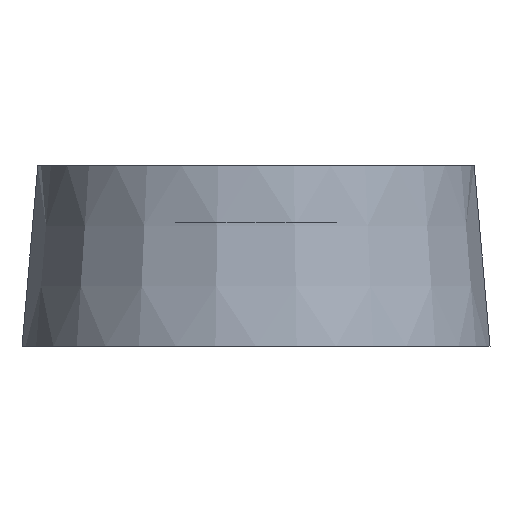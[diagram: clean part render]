
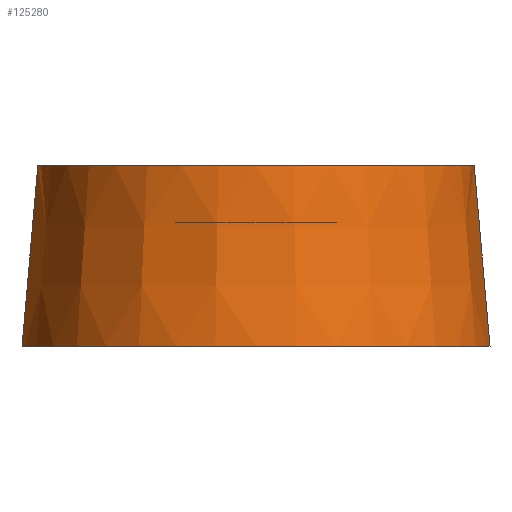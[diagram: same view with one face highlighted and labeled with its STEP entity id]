
A CAD part, left-side view. The second image highlights one B-rep face of the part: STEP entity #125280.
In plain terms, the highlighted conical face has half-angle 5 degrees and reference radius 2 mm.
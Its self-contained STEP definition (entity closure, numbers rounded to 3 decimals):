
#63470=CARTESIAN_POINT('',(2.,2.07,-0.8));
#63480=VERTEX_POINT('',#63470);
#63510=CARTESIAN_POINT('',(2.,0.,-0.8));
#63520=DIRECTION('',(0.,0.,-1.));
#63530=DIRECTION('',(1.,0.,0.));
#63540=AXIS2_PLACEMENT_3D('',#63510,#63520,#63530);
#63550=CIRCLE('',#63540,2.07);
#63560=CARTESIAN_POINT('',(2.,-2.07,-0.8));
#63570=VERTEX_POINT('',#63560);
#63580=EDGE_CURVE('',#63570,#63480,#63550,.T.);
#78870=CARTESIAN_POINT('',(2.,-1.93,0.8));
#78880=VERTEX_POINT('',#78870);
#78910=CARTESIAN_POINT('',(2.,0.,0.8));
#78920=DIRECTION('',(0.,0.,-1.));
#78930=DIRECTION('',(1.,0.,0.));
#78940=AXIS2_PLACEMENT_3D('',#78910,#78920,#78930);
#78950=CIRCLE('',#78940,1.93);
#78960=CARTESIAN_POINT('',(2.,1.93,0.8));
#78970=VERTEX_POINT('',#78960);
#78980=EDGE_CURVE('',#78880,#78970,#78950,.T.);
#125070=CARTESIAN_POINT('',(2.,0.,0.));
#125080=DIRECTION('',(0.,0.,-1.));
#125090=DIRECTION('',(1.,0.,0.));
#125100=AXIS2_PLACEMENT_3D('',#125070,#125080,#125090);
#125110=CONICAL_SURFACE('',#125100,2.,0.087);
#125120=ORIENTED_EDGE('',*,*,#63580,.F.);
#125130=CARTESIAN_POINT('',(2.,2.,0.));
#125140=DIRECTION('',(0.,-0.087,0.996));
#125150=VECTOR('',#125140,1.);
#125160=LINE('',#125130,#125150);
#125170=EDGE_CURVE('',#63480,#78970,#125160,.T.);
#125180=ORIENTED_EDGE('',*,*,#125170,.F.);
#125190=ORIENTED_EDGE('',*,*,#78980,.T.);
#125200=CARTESIAN_POINT('',(2.,-2.,0.));
#125210=DIRECTION('',(0.,0.087,0.996));
#125220=VECTOR('',#125210,1.);
#125230=LINE('',#125200,#125220);
#125240=EDGE_CURVE('',#63570,#78880,#125230,.T.);
#125250=ORIENTED_EDGE('',*,*,#125240,.T.);
#125260=EDGE_LOOP('',(#125250,#125190,#125180,#125120));
#125270=FACE_OUTER_BOUND('',#125260,.T.);
#125280=ADVANCED_FACE('',(#125270),#125110,.T.);
